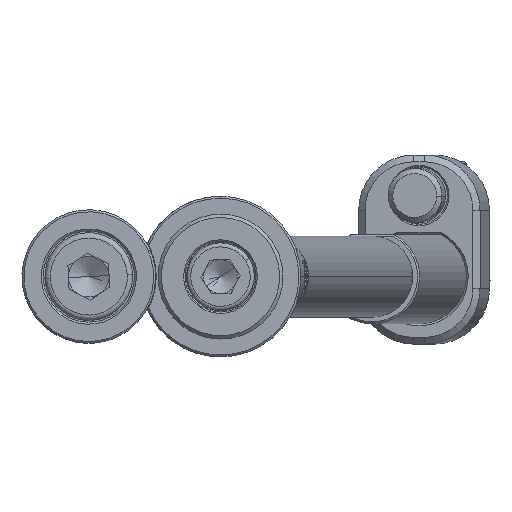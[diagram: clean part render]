
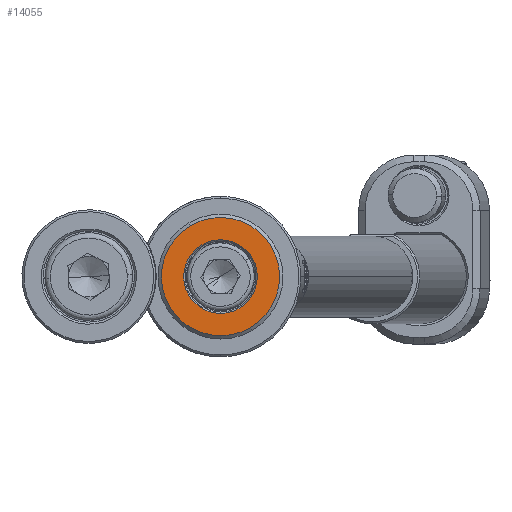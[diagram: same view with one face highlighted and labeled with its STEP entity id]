
A CAD part, front view. The second image highlights one B-rep face of the part: STEP entity #14055.
In plain terms, the highlighted planar face has unit normal (0, -1, 0).
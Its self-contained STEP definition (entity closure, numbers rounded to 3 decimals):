
#8 = EDGE_LOOP ( 'NONE', ( #13604, #9714 ) ) ;
#243 = CIRCLE ( 'NONE', #4434, 5.45 ) ;
#385 = VERTEX_POINT ( 'NONE', #12148 ) ;
#683 = DIRECTION ( 'NONE',  ( -0.505, 0., 0.863 ) ) ;
#1306 = AXIS2_PLACEMENT_3D ( 'NONE', #6071, #7290, #683 ) ;
#1722 = EDGE_LOOP ( 'NONE', ( #4766, #8913 ) ) ;
#1764 = CARTESIAN_POINT ( 'NONE',  ( -4.531, -4., -2.652 ) ) ;
#2914 = CARTESIAN_POINT ( 'NONE',  ( 2.753, -4., -4.704 ) ) ;
#3196 = AXIS2_PLACEMENT_3D ( 'NONE', #7141, #10508, #12652 ) ;
#3268 = VERTEX_POINT ( 'NONE', #2914 ) ;
#3430 = FACE_BOUND ( 'NONE', #8, .T. ) ;
#3635 = EDGE_CURVE ( 'NONE', #385, #5156, #4089, .T. ) ;
#4089 = CIRCLE ( 'NONE', #3196, 8.75 ) ;
#4233 = EDGE_CURVE ( 'NONE', #5156, #385, #4362, .T. ) ;
#4362 = CIRCLE ( 'NONE', #13386, 8.75 ) ;
#4434 = AXIS2_PLACEMENT_3D ( 'NONE', #13948, #12848, #10581 ) ;
#4766 = ORIENTED_EDGE ( 'NONE', *, *, #3635, .T. ) ;
#4877 = CARTESIAN_POINT ( 'NONE',  ( -2.753, -4., 4.704 ) ) ;
#5156 = VERTEX_POINT ( 'NONE', #7703 ) ;
#5671 = FACE_OUTER_BOUND ( 'NONE', #1722, .T. ) ;
#6071 = CARTESIAN_POINT ( 'NONE',  ( 0., -4., 0. ) ) ;
#6112 = DIRECTION ( 'NONE',  ( 0., -1., 0. ) ) ;
#6321 = DIRECTION ( 'NONE',  ( -0.505, 0., 0.863 ) ) ;
#7141 = CARTESIAN_POINT ( 'NONE',  ( 0., -4., 0. ) ) ;
#7290 = DIRECTION ( 'NONE',  ( 0., 1., 0. ) ) ;
#7531 = CIRCLE ( 'NONE', #1306, 5.45 ) ;
#7613 = EDGE_CURVE ( 'NONE', #12437, #3268, #7531, .T. ) ;
#7703 = CARTESIAN_POINT ( 'NONE',  ( 4.42, -4., -7.552 ) ) ;
#7837 = PLANE ( 'NONE',  #8047 ) ;
#8047 = AXIS2_PLACEMENT_3D ( 'NONE', #1764, #9562, #9345 ) ;
#8550 = CARTESIAN_POINT ( 'NONE',  ( 0., -4., 0. ) ) ;
#8913 = ORIENTED_EDGE ( 'NONE', *, *, #4233, .T. ) ;
#9345 = DIRECTION ( 'NONE',  ( -0.505, 0., 0.863 ) ) ;
#9562 = DIRECTION ( 'NONE',  ( 0., 1., 0. ) ) ;
#9714 = ORIENTED_EDGE ( 'NONE', *, *, #7613, .T. ) ;
#10508 = DIRECTION ( 'NONE',  ( 0., -1., 0. ) ) ;
#10581 = DIRECTION ( 'NONE',  ( -0.505, 0., 0.863 ) ) ;
#10611 = EDGE_CURVE ( 'NONE', #3268, #12437, #243, .T. ) ;
#12148 = CARTESIAN_POINT ( 'NONE',  ( -4.42, -4., 7.552 ) ) ;
#12437 = VERTEX_POINT ( 'NONE', #4877 ) ;
#12652 = DIRECTION ( 'NONE',  ( -0.505, 0., 0.863 ) ) ;
#12848 = DIRECTION ( 'NONE',  ( 0., 1., 0. ) ) ;
#13386 = AXIS2_PLACEMENT_3D ( 'NONE', #8550, #6112, #6321 ) ;
#13604 = ORIENTED_EDGE ( 'NONE', *, *, #10611, .T. ) ;
#13948 = CARTESIAN_POINT ( 'NONE',  ( 0., -4., 0. ) ) ;
#14055 = ADVANCED_FACE ( 'NONE', ( #3430, #5671 ), #7837, .F. ) ;
